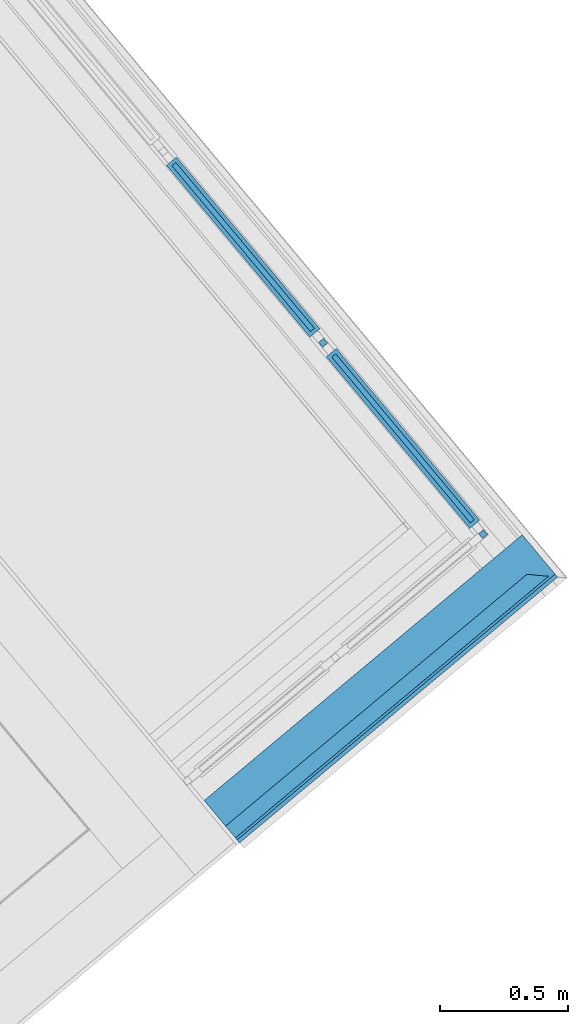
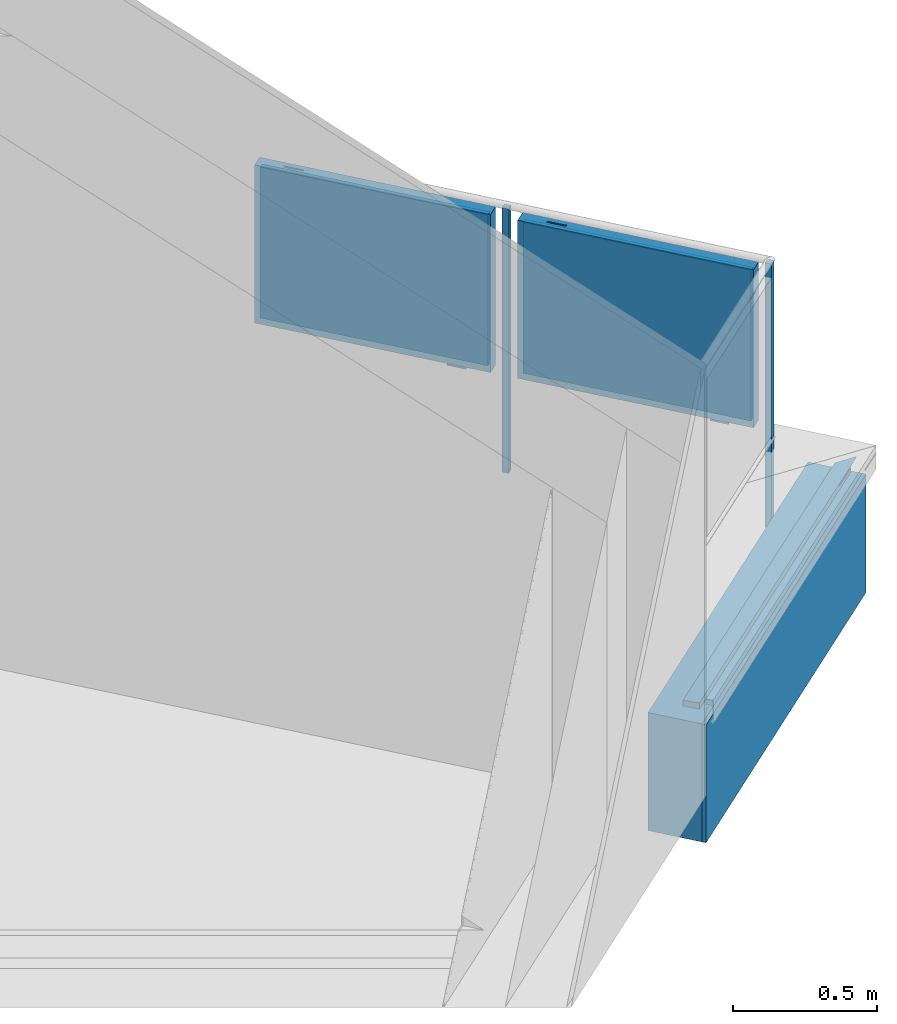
# One storey, part 31 of 58: 9 building element parts, 2 elements without a shape of their own.
"""IFC4 building model written with IfcOpenShell, lengths in metres."""

from ifc_helpers import new_model, entity, si_unit, converted_unit, derived_unit, direction, frame, origin_with_axes, place, context, subcontext, project, spatial, polygons, material, type_object, element, aggregate, save


model = new_model("IFC4")

# Units and contexts
model_context = context("Model", 3, precision=1e-05, world=origin_with_axes(), true_north=direction((0.0, 1.0)))
body_context = subcontext(model_context, "Body", "Model", "MODEL_VIEW")
ifc_project = project(units=[si_unit("LENGTHUNIT", "METRE"), si_unit("AREAUNIT", "SQUARE_METRE"), si_unit("VOLUMEUNIT", "CUBIC_METRE"), converted_unit("PLANEANGLEUNIT", "DEGREE", entity("IfcPlaneAngleMeasure", 0.0174532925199), si_unit("PLANEANGLEUNIT", "RADIAN"), dimensions=[0, 0, 0, 0, 0, 0, 0]), converted_unit("TIMEUNIT", "Year", entity("IfcTimeMeasure", 31556926.0), si_unit("TIMEUNIT", "SECOND"), dimensions=[0, 0, 1, 0, 0, 0, 0]), si_unit("MASSUNIT", "GRAM", prefix="KILO"), si_unit("THERMODYNAMICTEMPERATUREUNIT", "DEGREE_CELSIUS"), si_unit("LUMINOUSINTENSITYUNIT", "LUMEN"), si_unit("ENERGYUNIT", "JOULE", prefix="MEGA"), derived_unit("THERMALCONDUCTANCEUNIT", [(si_unit("POWERUNIT", "WATT"), 1), (si_unit("LENGTHUNIT", "METRE"), -1), (si_unit("THERMODYNAMICTEMPERATUREUNIT", "KELVIN"), -1)]), derived_unit("SPECIFICHEATCAPACITYUNIT", [(si_unit("ENERGYUNIT", "JOULE"), 1), (si_unit("MASSUNIT", "GRAM", prefix="KILO"), -1), (si_unit("THERMODYNAMICTEMPERATUREUNIT", "KELVIN"), -1)]), derived_unit("MASSDENSITYUNIT", [(si_unit("MASSUNIT", "GRAM", prefix="KILO"), 1), (si_unit("VOLUMEUNIT", "CUBIC_METRE"), -1)])], contexts=[model_context])

# Site, building, storey
site_placement = place(None, frame((-0.00153261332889, -0.00661245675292, 0.0), z_axis=(0.0, 0.0, 1.0), x_axis=(1.0, 0.0, 0.0)))
site = spatial("IfcSite", under=ifc_project, at=site_placement, Name="Site", CompositionType="ELEMENT")
building_placement = place(site_placement, origin_with_axes())
building = spatial("IfcBuilding", under=site, at=building_placement, Name="Building", CompositionType="ELEMENT")
storey_placement = place(building_placement, frame((0.0, 0.0, 5.7), z_axis=(0.0, 0.0, 1.0), x_axis=(1.0, 0.0, 0.0)))
storey = spatial("IfcBuildingStorey", under=building, at=storey_placement, Name="DG1", CompositionType="ELEMENT", Elevation=5.7)

# Wall, building element parts
wall_type = type_object("IfcWallType", Name="Balkon Dämmung runter 574 x 610", PredefinedType="NOTDEFINED")
wall_placement = place(storey_placement, frame((13.259988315, 20.4436832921, -0.2), z_axis=(0.0, 0.0, 1.0), x_axis=(0.767365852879, 0.641209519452, 0.0)))
wall = element("IfcWall", 1, at=wall_placement, inside=storey, type_object=wall_type, Name="Wand-004", PredefinedType="NOTDEFINED")
ifc_material_1 = material(Name="EPS 1")
building_element_part_1_placement = place(wall_placement, origin_with_axes())
building_element_part_1 = element("IfcBuildingElementPart", 2, at=building_element_part_1_placement, material=ifc_material_1, Name="EPS 1", PredefinedType="NOTDEFINED", context=body_context, shape_type="Tessellation", body=[
    polygons([(1.61511881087, -0.19999996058, 0.0), (1.61511881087, -0.19999996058, 0.500000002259), (0.0, -0.19999996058, 0.499999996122), (0.0, -0.19999996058, 0.0), (1.61511962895, -2.90217805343e-09, 0.0), (1.61511962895, -2.73518629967e-09, 0.200000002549), (1.61511962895, -2.90217805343e-09, 0.500000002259), (0.0, -2.90217805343e-09, 0.500000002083), (0.0, -2.73518807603e-09, 0.200000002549), (0.0, -2.90217805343e-09, 0.0)], [[[1, 2, 3, 4]], [[2, 1, 5, 6, 7]], [[2, 7, 8, 3]], [[4, 3, 8, 9, 10]], [[5, 1, 4, 10]], [[6, 5, 10, 9]], [[7, 6, 9, 8]]], closed=True),
])
ifc_material_2 = material(Name="Vollholz")
building_element_part_2_placement = place(wall_placement, origin_with_axes())
building_element_part_2 = element("IfcBuildingElementPart", 3, at=building_element_part_2_placement, material=ifc_material_2, Name="Vollholz", PredefinedType="NOTDEFINED", context=body_context, shape_type="Tessellation", body=[
    polygons([(1.53024385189, -0.189996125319, 0.584015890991), (1.5901037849, -0.189984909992, 0.586106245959), (0.0, -0.189984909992, 0.586106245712), (0.0, -0.190124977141, 0.560000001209), (1.53024385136, -0.190124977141, 0.560000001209), (1.53024385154, -0.19008233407, 0.567947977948), (1.53024385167, -0.190050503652, 0.573880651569), (1.53024385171, -0.190041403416, 0.575576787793), (1.53024385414, -0.190039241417, 0.575979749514), (1.47026178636, -0.190039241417, 0.575979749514), (1.41017292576, -0.190039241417, 0.575979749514), (1.41015155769, -0.190018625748, 0.579822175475), (1.47026178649, -0.190007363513, 0.581921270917), (1.53024385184, -0.190007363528, 0.581921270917), (1.53024409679, -0.130124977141, 0.584015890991), (0.0, -0.130124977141, 0.584015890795), (0.0, -0.130124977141, 0.560000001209), (1.53024409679, -0.130124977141, 0.560000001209), (1.53024409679, -0.130124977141, 0.567947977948), (1.53024409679, -0.130124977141, 0.573880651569), (1.53024409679, -0.130124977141, 0.575576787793), (1.53024409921, -0.130124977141, 0.575979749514), (1.47026203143, -0.130124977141, 0.575979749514), (1.41017317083, -0.130124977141, 0.575979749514), (1.41015180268, -0.130124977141, 0.579822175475), (1.47026203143, -0.130124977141, 0.581921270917), (1.53024409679, -0.130124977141, 0.581921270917)], [[[1, 2, 3, 4, 5, 6, 7, 8, 9, 10, 11, 12, 13, 14]], [[15, 2, 1]], [[2, 15, 16, 3]], [[16, 17, 4, 3]], [[17, 18, 5, 4]], [[5, 18, 19, 6]], [[7, 6, 19, 20]], [[21, 8, 7, 20]], [[22, 9, 8, 21]], [[10, 9, 22, 23]], [[10, 23, 24, 11]], [[11, 24, 25, 12]], [[12, 25, 26, 13]], [[14, 13, 26, 27]], [[15, 1, 14, 27]], [[18, 17, 16, 15, 27, 26, 25, 24, 23, 22, 21, 20, 19]]], closed=True),
])
ifc_material_3 = material(Name="Zementputz")
building_element_part_3_placement = place(wall_placement, origin_with_axes())
building_element_part_3 = element("IfcBuildingElementPart", 4, at=building_element_part_3_placement, material=ifc_material_3, Name="Zementputz", PredefinedType="NOTDEFINED", context=body_context, shape_type="Tessellation", body=[
    polygons([(1.61511874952, -0.214999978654, 0.0), (1.61511874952, -0.214999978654, 0.500000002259), (0.0, -0.214999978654, 0.500000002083), (0.0, -0.214999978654, 0.0), (1.61511881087, -0.19999996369, 0.0), (1.61511881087, -0.19999996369, 0.500000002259), (0.0, -0.19999996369, 0.499999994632), (0.0, -0.19999996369, 0.0)], [[[1, 2, 3, 4]], [[2, 1, 5, 6]], [[2, 6, 7, 3]], [[3, 7, 8, 4]], [[5, 1, 4, 8]], [[6, 5, 8, 7]]], closed=True),
])
aggregate(wall, [building_element_part_1, building_element_part_2, building_element_part_3])

# Railing, building element parts
railing_type = type_object("IfcRailingType", Name="Geländerart", PredefinedType="NOTDEFINED")
railing_placement = place(storey_placement, frame((13.1317464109, 20.5971564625, 0.38), z_axis=(0.0, 0.0, 1.0), x_axis=(1.0, 0.0, 0.0)))
railing = element("IfcRailing", 5, at=railing_placement, inside=storey, type_object=railing_type, Name="Geländer - 001", PredefinedType="NOTDEFINED")
ifc_material_4 = material(Name="Aluminium")
building_element_part_4_placement = place(railing_placement, origin_with_axes())
building_element_part_4 = element("IfcBuildingElementPart", 6, at=building_element_part_4_placement, material=ifc_material_4, Name="Aluminium", PredefinedType="NOTDEFINED", context=body_context, shape_type="Tessellation", body=[
    polygons([(1.23243263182, 0.882921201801, -0.3), (1.21640523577, 0.902107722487, -0.3), (1.21640523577, 0.902107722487, 0.82), (1.23243263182, 0.882921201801, 0.82), (1.21324611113, 0.866893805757, -0.3), (1.19721871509, 0.886080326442, -0.3), (1.19721871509, 0.886080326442, 0.82), (1.21324611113, 0.866893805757, 0.82)], [[[1, 2, 3, 4]], [[1, 5, 6, 2]], [[2, 6, 7, 3]], [[4, 3, 7, 8]], [[5, 1, 4, 8]], [[6, 5, 8, 7]]], closed=True),
])
ifc_material_5 = material(Name="Profilit")
building_element_part_5_placement = place(railing_placement, origin_with_axes())
building_element_part_5 = element("IfcBuildingElementPart", 7, at=building_element_part_5_placement, material=ifc_material_5, Name="Profilit", PredefinedType="NOTDEFINED", context=body_context, shape_type="Tessellation", body=[
    polygons([(0.625893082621, 1.57389905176, 0.135), (1.16547924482, 0.92797408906, 0.135), (1.16547924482, 0.92797408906, 0.775), (0.625893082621, 1.57389905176, 0.775), (1.18082828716, 0.940796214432, 0.135), (0.641242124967, 1.58672117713, 0.135), (1.18082828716, 0.940796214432, 0.775), (0.641242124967, 1.58672117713, 0.775)], [[[1, 2, 3, 4]], [[5, 2, 1, 6]], [[7, 3, 2, 5]], [[4, 3, 7, 8]], [[1, 4, 8, 6]], [[7, 5, 6, 8]]], closed=True),
])
building_element_part_6_placement = place(railing_placement, origin_with_axes())
building_element_part_6 = element("IfcBuildingElementPart", 8, at=building_element_part_6_placement, material=ifc_material_4, Name="Aluminium", PredefinedType="NOTDEFINED", context=body_context, shape_type="Tessellation", body=[
    polygons([(1.11674110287, 0.998015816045, 0.12), (1.07186366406, 1.05173746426, 0.12), (1.07186366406, 1.05173746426, 0.095), (1.11674110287, 0.998015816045, 0.095), (1.12057836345, 1.00122134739, 0.12), (1.07570092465, 1.0549429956, 0.12), (1.07570092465, 1.0549429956, 0.095), (1.12057836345, 1.00122134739, 0.095)], [[[1, 2, 3, 4]], [[5, 6, 2, 1]], [[2, 6, 7, 3]], [[4, 3, 7, 8]], [[1, 4, 8, 5]], [[8, 7, 6, 5]]], closed=True),
    polygons([(0.686143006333, 1.5134739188, 0.79), (0.731020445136, 1.45975227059, 0.79), (0.731020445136, 1.45975227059, 0.795), (0.686143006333, 1.5134739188, 0.795), (0.68998026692, 1.51667945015, 0.79), (0.734857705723, 1.46295780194, 0.79), (0.734857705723, 1.46295780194, 0.795), (0.68998026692, 1.51667945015, 0.795)], [[[1, 2, 3, 4]], [[5, 6, 2, 1]], [[2, 6, 7, 3]], [[4, 3, 7, 8]], [[1, 4, 8, 5]], [[8, 7, 6, 5]]], closed=True),
    polygons([(1.20195666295, 0.938901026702, 0.12), (1.16358405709, 0.906845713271, 0.12), (0.604764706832, 1.57579423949, 0.12), (0.643137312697, 1.60784955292, 0.12), (1.18913453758, 0.954250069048, 0.14), (1.17762275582, 0.944633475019, 0.14), (1.18082828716, 0.940796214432, 0.135), (1.16547924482, 0.92797408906, 0.135), (1.16227371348, 0.931811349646, 0.14), (1.15076193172, 0.922194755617, 0.14), (0.617586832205, 1.56044519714, 0.14), (0.617586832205, 1.56044519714, 0.77), (1.15076193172, 0.922194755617, 0.77), (1.15076193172, 0.922194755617, 0.14), (1.16358405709, 0.906845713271, 0.12), (1.16358405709, 0.906845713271, 0.79), (0.604764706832, 1.57579423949, 0.79), (0.643137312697, 1.60784955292, 0.79), (1.20195666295, 0.938901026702, 0.79), (1.20195666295, 0.938901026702, 0.12), (1.18913453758, 0.954250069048, 0.14), (1.18913453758, 0.954250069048, 0.77), (0.65595943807, 1.59250051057, 0.77), (0.65595943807, 1.59250051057, 0.14), (0.64444765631, 1.58288391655, 0.14), (0.64444765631, 1.58288391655, 0.77), (1.17762275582, 0.944633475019, 0.77), (1.17762275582, 0.944633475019, 0.14), (1.18082828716, 0.940796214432, 0.135), (1.18082828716, 0.940796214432, 0.775), (0.641242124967, 1.58672117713, 0.775), (0.641242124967, 1.58672117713, 0.135), (0.625893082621, 1.57389905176, 0.135), (0.625893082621, 1.57389905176, 0.775), (1.16547924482, 0.92797408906, 0.775), (1.16547924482, 0.92797408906, 0.135), (1.16227371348, 0.931811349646, 0.14), (1.16227371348, 0.931811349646, 0.77), (0.629098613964, 1.57006179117, 0.77), (0.629098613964, 1.57006179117, 0.14)], [[[1, 2, 3, 4]], [[1, 5, 6, 7, 8, 9, 10, 2]], [[2, 10, 11, 12, 13, 14, 15, 16, 17, 3]], [[4, 3, 17, 18]], [[5, 1, 4, 18, 19, 20, 21, 22, 23, 24]], [[6, 5, 24, 25]], [[7, 6, 25, 26, 27, 28, 29, 30, 31, 32]], [[8, 7, 32, 33]], [[9, 8, 33, 34, 35, 36, 37, 38, 39, 40]], [[10, 9, 40, 11]], [[11, 40, 39, 12]], [[12, 39, 38, 13]], [[13, 38, 37, 14]], [[20, 15, 14, 37, 36, 29, 28, 21]], [[19, 16, 15, 20]], [[18, 17, 16, 19]], [[27, 22, 21, 28]], [[26, 23, 22, 27]], [[25, 24, 23, 26]], [[35, 30, 29, 36]], [[34, 31, 30, 35]], [[33, 32, 31, 34]]], closed=True),
])
building_element_part_7_placement = place(railing_placement, origin_with_axes())
building_element_part_7 = element("IfcBuildingElementPart", 9, at=building_element_part_7_placement, material=ifc_material_4, Name="Aluminium", PredefinedType="NOTDEFINED", context=body_context, shape_type="Tessellation", body=[
    polygons([(0.593475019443, 1.64780148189, -0.3), (0.57428871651, 1.63177382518, -0.3), (0.57428871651, 1.63177382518, 0.82), (0.593475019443, 1.64780148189, 0.82), (0.609502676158, 1.62861517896, -0.3), (0.590316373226, 1.61258752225, -0.3), (0.590316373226, 1.61258752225, 0.82), (0.609502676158, 1.62861517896, 0.82)], [[[1, 2, 3, 4]], [[1, 5, 6, 2]], [[2, 6, 7, 3]], [[4, 3, 7, 8]], [[5, 1, 4, 8]], [[6, 5, 8, 7]]], closed=True),
])
building_element_part_8_placement = place(railing_placement, origin_with_axes())
building_element_part_8 = element("IfcBuildingElementPart", 10, at=building_element_part_8_placement, material=ifc_material_5, Name="Profilit", PredefinedType="NOTDEFINED", context=body_context, shape_type="Tessellation", body=[
    polygons([(0.00296310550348, 2.31959278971, 0.135), (0.542549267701, 1.67366782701, 0.135), (0.542549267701, 1.67366782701, 0.775), (0.00296310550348, 2.31959278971, 0.775), (0.557898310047, 1.68648995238, 0.135), (0.0183121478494, 2.33241491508, 0.135), (0.557898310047, 1.68648995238, 0.775), (0.0183121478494, 2.33241491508, 0.775)], [[[1, 2, 3, 4]], [[5, 2, 1, 6]], [[7, 3, 2, 5]], [[4, 3, 7, 8]], [[1, 4, 8, 6]], [[7, 5, 6, 8]]], closed=True),
])
building_element_part_9_placement = place(railing_placement, origin_with_axes())
building_element_part_9 = element("IfcBuildingElementPart", 11, at=building_element_part_9_placement, material=ifc_material_4, Name="Aluminium", PredefinedType="NOTDEFINED", context=body_context, shape_type="Tessellation", body=[
    polygons([(0.493811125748, 1.74370955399, 0.12), (0.448933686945, 1.7974312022, 0.12), (0.448933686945, 1.7974312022, 0.095), (0.493811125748, 1.74370955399, 0.095), (0.497648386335, 1.74691508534, 0.12), (0.452770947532, 1.80063673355, 0.12), (0.452770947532, 1.80063673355, 0.095), (0.497648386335, 1.74691508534, 0.095)], [[[1, 2, 3, 4]], [[5, 6, 2, 1]], [[2, 6, 7, 3]], [[4, 3, 7, 8]], [[1, 4, 8, 5]], [[8, 7, 6, 5]]], closed=True),
    polygons([(0.0632130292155, 2.25916765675, 0.79), (0.108090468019, 2.20544600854, 0.79), (0.108090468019, 2.20544600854, 0.795), (0.0632130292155, 2.25916765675, 0.795), (0.067050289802, 2.2623731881, 0.79), (0.111927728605, 2.20865153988, 0.79), (0.111927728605, 2.20865153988, 0.795), (0.067050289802, 2.2623731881, 0.795)], [[[1, 2, 3, 4]], [[5, 6, 2, 1]], [[2, 6, 7, 3]], [[4, 3, 7, 8]], [[1, 4, 8, 5]], [[8, 7, 6, 5]]], closed=True),
    polygons([(0.579026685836, 1.68459476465, 0.12), (0.540654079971, 1.65253945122, 0.12), (-0.0181652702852, 2.32148797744, 0.12), (0.0202073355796, 2.35354329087, 0.12), (0.566204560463, 1.699943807, 0.14), (0.554692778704, 1.69032721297, 0.14), (0.557898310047, 1.68648995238, 0.135), (0.542549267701, 1.67366782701, 0.135), (0.539343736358, 1.67750508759, 0.14), (0.527831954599, 1.66788849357, 0.14), (-0.00534314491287, 2.30613893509, 0.14), (-0.00534314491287, 2.30613893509, 0.77), (0.527831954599, 1.66788849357, 0.77), (0.527831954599, 1.66788849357, 0.14), (0.540654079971, 1.65253945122, 0.12), (0.540654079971, 1.65253945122, 0.79), (-0.0181652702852, 2.32148797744, 0.79), (0.0202073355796, 2.35354329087, 0.79), (0.579026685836, 1.68459476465, 0.79), (0.579026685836, 1.68459476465, 0.12), (0.566204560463, 1.699943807, 0.14), (0.566204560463, 1.699943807, 0.77), (0.0330294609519, 2.33819424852, 0.77), (0.0330294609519, 2.33819424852, 0.14), (0.0215176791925, 2.32857765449, 0.14), (0.0215176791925, 2.32857765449, 0.77), (0.554692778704, 1.69032721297, 0.77), (0.554692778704, 1.69032721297, 0.14), (0.557898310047, 1.68648995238, 0.135), (0.557898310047, 1.68648995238, 0.775), (0.0183121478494, 2.33241491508, 0.775), (0.0183121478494, 2.33241491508, 0.135), (0.00296310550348, 2.31959278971, 0.135), (0.00296310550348, 2.31959278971, 0.775), (0.542549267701, 1.67366782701, 0.775), (0.542549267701, 1.67366782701, 0.135), (0.539343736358, 1.67750508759, 0.14), (0.539343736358, 1.67750508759, 0.77), (0.00616863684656, 2.31575552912, 0.77), (0.00616863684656, 2.31575552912, 0.14)], [[[1, 2, 3, 4]], [[1, 5, 6, 7, 8, 9, 10, 2]], [[2, 10, 11, 12, 13, 14, 15, 16, 17, 3]], [[4, 3, 17, 18]], [[5, 1, 4, 18, 19, 20, 21, 22, 23, 24]], [[6, 5, 24, 25]], [[7, 6, 25, 26, 27, 28, 29, 30, 31, 32]], [[8, 7, 32, 33]], [[9, 8, 33, 34, 35, 36, 37, 38, 39, 40]], [[10, 9, 40, 11]], [[11, 40, 39, 12]], [[12, 39, 38, 13]], [[13, 38, 37, 14]], [[20, 15, 14, 37, 36, 29, 28, 21]], [[19, 16, 15, 20]], [[18, 17, 16, 19]], [[27, 22, 21, 28]], [[26, 23, 22, 27]], [[25, 24, 23, 26]], [[35, 30, 29, 36]], [[34, 31, 30, 35]], [[33, 32, 31, 34]]], closed=True),
])
aggregate(railing, [building_element_part_4, building_element_part_5, building_element_part_6, building_element_part_7, building_element_part_8, building_element_part_9])

save(model, "model.ifc")
